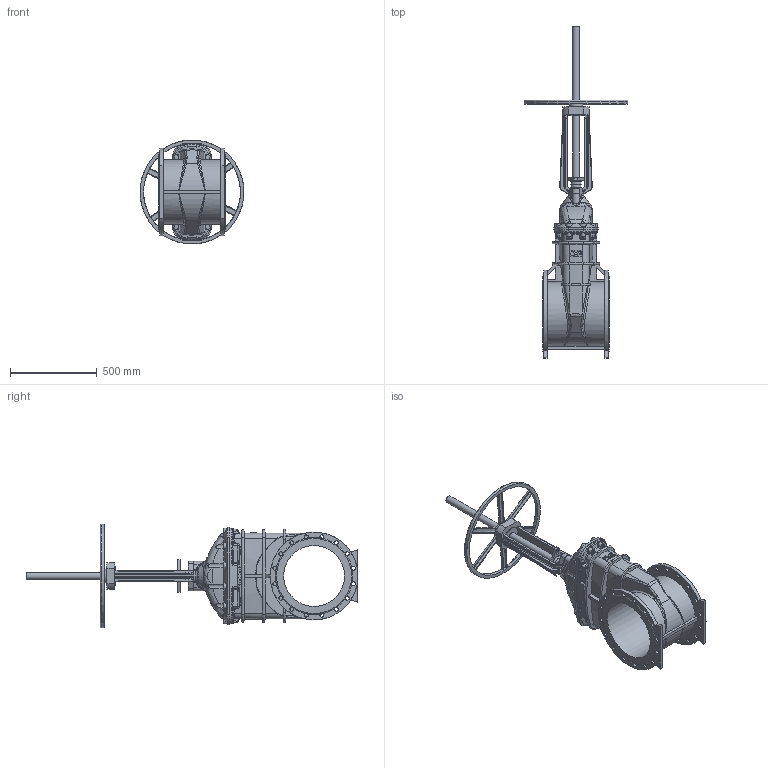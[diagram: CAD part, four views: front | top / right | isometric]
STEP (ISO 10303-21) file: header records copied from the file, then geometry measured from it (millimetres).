
FILE_DESCRIPTION (( 'STEP AP203' ), '1' );
FILE_NAME ('O_21_34_DN350_40XXXXX open_AA0.step', '2020-02-12T09:45:04', ( 'Windows User' ), ( 'AVK' ), 'SwSTEP 2.0', 'SolidWorks 2012', '' );
FILE_SCHEMA (( 'CONFIG_CONTROL_DESIGN' ));
Length unit declared in the file: millimetre
Products named in the file (1): O_21_34_DN350_40XXXXX open_AA0
Bounding box: 598.51 x 1910.5 x 598.51 mm (x, y, z)
Volume: 58257102.9 mm3; surface area: 2933129.8 mm2
Topology: 1 solids, 1 shells, 969 faces, 2616 edges, 1622 vertices
Faces by surface type: bspline 341, plane 207, cylinder 197, cone 130, torus 74, sphere 20
Full cylindrical faces by diameter (mm): 23 x32, 40 x2, 55.9 x1, 60 x1, 64 x1, 77 x1, 105 x1, 350 x1, 505 x2
Entity records: 48020 total; most frequent: CARTESIAN_POINT 27366, ORIENTED_EDGE 5022, DIRECTION 3374, EDGE_CURVE 2511, VERTEX_POINT 1575, AXIS2_PLACEMENT_3D 1422, EDGE_LOOP 1086, FACE_OUTER_BOUND 1015
